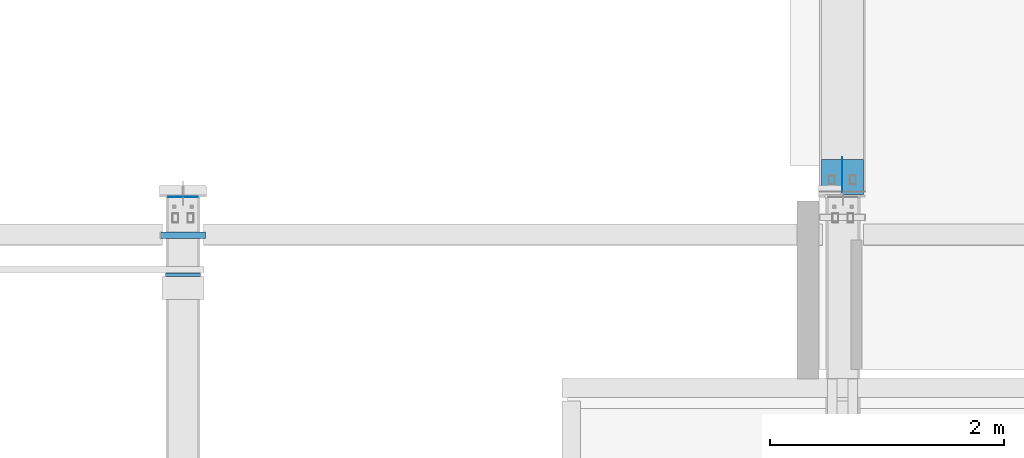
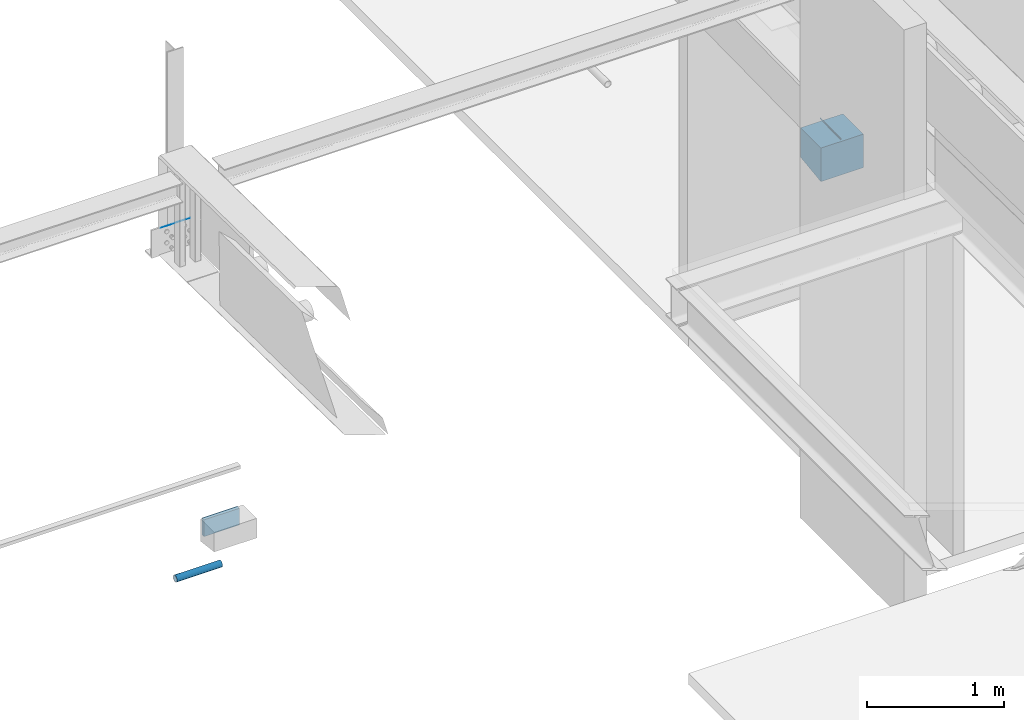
# One storey, part 38 of 186: 5 beams.
"""IFC4X3_ADD2 building model written with IfcOpenShell, lengths in millimetres."""

from ifc_helpers import new_model, entity, si_unit, direction, frame, frame_2d, origin_with_axes, place, context, subcontext, project, spatial, rectangle, hollow_circle, extrude, material, element, save


model = new_model("IFC4X3_ADD2")

# Units and contexts
model_context = context("Model", 3, precision=1e-05, world=origin_with_axes(), true_north=direction((0.0, 1.0)))
body_context = subcontext(model_context, "Body", "Model", "MODEL_VIEW")
ifc_project = project(units=[si_unit("LENGTHUNIT", "METRE", prefix="MILLI"), si_unit("AREAUNIT", "SQUARE_METRE"), si_unit("VOLUMEUNIT", "CUBIC_METRE"), si_unit("PLANEANGLEUNIT", "RADIAN"), si_unit("TIMEUNIT", "SECOND"), si_unit("MASSUNIT", "GRAM")], contexts=[model_context])

# Site, building, storey
site_placement = place(None, origin_with_axes())
site = spatial("IfcSite", under=ifc_project, at=site_placement, Name="Site", CompositionType="ELEMENT")
building_placement = place(site_placement, origin_with_axes())
building = spatial("IfcBuilding", under=site, at=building_placement, Name="IFC Building Story")
storey_placement = place(building_placement, frame((0.0, 0.0, 4370.0), z_axis=(0.0, 0.0, 1.0), x_axis=(1.0, 0.0, 0.0)))
storey = spatial("IfcBuildingStorey", under=building, at=storey_placement, Name="ETAGE 10 (1)", Elevation=4370.0)

# Beams
ifc_material_1 = material(Name="STEEL/Accessory_C50/60 64192")
beam_1_placement = place(storey_placement, frame((33581.188, 18150.0, 2670.333000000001), z_axis=(-1.0, 0.0, 0.0), x_axis=(0.0, 0.0, 1.0)))
element("IfcBeam", 1, at=beam_1_placement, inside=storey, material=ifc_material_1, Name="BEK1", ObjectType="CORBEL300-300-260", context=body_context, shape_type="SweptSolid", body=[
    extrude(entity("IfcTrapeziumProfileDef", "AREA", None, entity("IfcAxis2Placement2D", entity("IfcCartesianPoint", [0.0, 5.95523630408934e-12]), entity("IfcDirection", [1.0, 0.0])), 300.0, 260.0, 300.0, 40.0), origin_with_axes(), (0.0, 0.0, 1.0), 360.0),
])
ifc_material_2 = material(Name="STEEL/Accessory_invisible 261")
beam_2_placement = place(storey_placement, frame((33400.6886988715, 18169.9218785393, 2829.260587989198), z_axis=(1.0, 0.0, 0.0), x_axis=(0.0, 0.01553751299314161, -0.9998792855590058)))
element("IfcBeam", 2, at=beam_2_placement, inside=storey, material=ifc_material_2, Name="BEK4", ObjectType="10*1", context=body_context, shape_type="SweptSolid", body=[
    extrude(rectangle(XDim=9.999999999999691, YDim=300.036218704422, at=frame_2d((0.0, 5.95523630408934e-12), x_axis=(1.0, 0.0))), origin_with_axes(), (0.0, 0.0, 1.0), 1.0),
])
beam_3_placement = place(storey_placement, frame((27881.189, 17979.4989318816, 4079.50041961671), z_axis=(-1.0, 0.0, 0.0), x_axis=(0.0, 1.0, 0.0)))
element("IfcBeam", 3, at=beam_3_placement, inside=storey, material=ifc_material_2, Name="53", ObjectType="1*1 3", context=body_context, shape_type="SweptSolid", body=[
    extrude(rectangle(XDim=0.9999999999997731, YDim=0.9999999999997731, at=frame_2d((0.0, 5.95523630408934e-12), x_axis=(1.0, 0.0))), origin_with_axes(), (0.0, 0.0, 1.0), 250.0),
])
ifc_material_3 = material(Name="STEEL/Accessory_PVC")
beam_4_placement = place(storey_placement, frame((27564.1886362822, 17649.9997253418, 1168.306), z_axis=(1.0, 0.0, 0.0), x_axis=(0.0, 0.0, -1.0)))
element("IfcBeam", 4, at=beam_4_placement, inside=storey, material=ifc_material_3, Name="PS13", ObjectType="O56*3", context=body_context, shape_type="SweptSolid", body=[
    extrude(hollow_circle(Radius=28.0, WallThickness=3.0, at=frame_2d((0.0, 5.95523630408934e-12), x_axis=(1.0, 0.0))), origin_with_axes(), (0.0, 0.0, 1.0), 384.0),
])
ifc_material_4 = material(Name="STEEL/Accessory_EPS")
beam_5_placement = place(storey_placement, frame((27906.1886362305, 17314.9997253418, 1815.00000000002), z_axis=(-1.0, 0.0, 0.0), x_axis=(0.0, 0.0, -1.0)))
element("IfcBeam", 5, at=beam_5_placement, inside=storey, material=ifc_material_4, Name="POL4", ObjectType="30*300 4", context=body_context, shape_type="SweptSolid", body=[
    extrude(rectangle(XDim=149.999999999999, YDim=29.9999999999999, at=frame_2d((0.0, 5.95523630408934e-12), x_axis=(1.0, 0.0))), origin_with_axes(), (0.0, 0.0, 1.0), 300.0),
])

save(model, "model.ifc")
